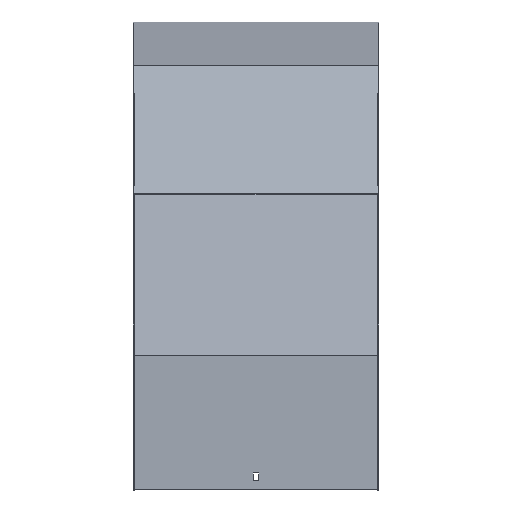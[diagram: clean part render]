
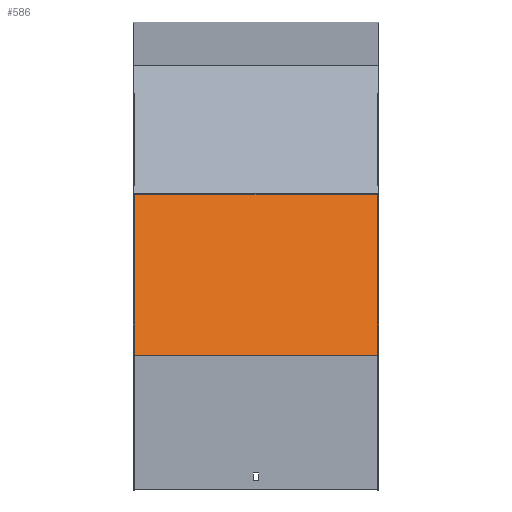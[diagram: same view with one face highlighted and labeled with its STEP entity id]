
A CAD part, top view. The second image highlights one B-rep face of the part: STEP entity #586.
In plain terms, the highlighted planar face has unit normal (0, 0.259, 0.966).
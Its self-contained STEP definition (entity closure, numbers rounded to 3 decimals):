
#2 = DIRECTION ( 'NONE',  ( 0., -0.259, -0.966 ) ) ;
#17 = VECTOR ( 'NONE', #1045, 1000. ) ;
#43 = DIRECTION ( 'NONE',  ( -1., 0., 0. ) ) ;
#45 = VERTEX_POINT ( 'NONE', #642 ) ;
#68 = EDGE_CURVE ( 'NONE', #100, #785, #1025, .T. ) ;
#77 = DIRECTION ( 'NONE',  ( 0., -0.966, 0.259 ) ) ;
#100 = VERTEX_POINT ( 'NONE', #411 ) ;
#130 = DIRECTION ( 'NONE',  ( 0., -0.966, 0.259 ) ) ;
#159 = ORIENTED_EDGE ( 'NONE', *, *, #68, .T. ) ;
#210 = VERTEX_POINT ( 'NONE', #306 ) ;
#248 = ORIENTED_EDGE ( 'NONE', *, *, #463, .F. ) ;
#252 = LINE ( 'NONE', #671, #364 ) ;
#306 = CARTESIAN_POINT ( 'NONE',  ( 151.5, -392.412, 579.045 ) ) ;
#364 = VECTOR ( 'NONE', #77, 1000. ) ;
#367 = CARTESIAN_POINT ( 'NONE',  ( 151.5, -197.649, 526.859 ) ) ;
#411 = CARTESIAN_POINT ( 'NONE',  ( 151.5, -192.473, 525.472 ) ) ;
#463 = EDGE_CURVE ( 'NONE', #100, #210, #252, .T. ) ;
#470 = CARTESIAN_POINT ( 'NONE',  ( -151.5, -192.473, 525.472 ) ) ;
#586 = ADVANCED_FACE ( 'NONE', ( #884 ), #805, .F. ) ;
#596 = VECTOR ( 'NONE', #130, 1000. ) ;
#622 = EDGE_CURVE ( 'NONE', #785, #45, #1038, .T. ) ;
#642 = CARTESIAN_POINT ( 'NONE',  ( -151.5, -392.412, 579.045 ) ) ;
#671 = CARTESIAN_POINT ( 'NONE',  ( 151.5, -197.649, 526.859 ) ) ;
#672 = VECTOR ( 'NONE', #43, 1000. ) ;
#709 = DIRECTION ( 'NONE',  ( 0., 0.966, -0.259 ) ) ;
#747 = ORIENTED_EDGE ( 'NONE', *, *, #906, .F. ) ;
#760 = CARTESIAN_POINT ( 'NONE',  ( 151.5, -192.473, 525.472 ) ) ;
#785 = VERTEX_POINT ( 'NONE', #470 ) ;
#805 = PLANE ( 'NONE',  #866 ) ;
#816 = CARTESIAN_POINT ( 'NONE',  ( -151.5, -197.649, 526.859 ) ) ;
#830 = LINE ( 'NONE', #1006, #672 ) ;
#856 = EDGE_LOOP ( 'NONE', ( #1099, #747, #248, #159 ) ) ;
#866 = AXIS2_PLACEMENT_3D ( 'NONE', #367, #2, #709 ) ;
#884 = FACE_OUTER_BOUND ( 'NONE', #856, .T. ) ;
#906 = EDGE_CURVE ( 'NONE', #210, #45, #830, .T. ) ;
#1006 = CARTESIAN_POINT ( 'NONE',  ( 151.5, -392.412, 579.045 ) ) ;
#1025 = LINE ( 'NONE', #760, #17 ) ;
#1038 = LINE ( 'NONE', #816, #596 ) ;
#1045 = DIRECTION ( 'NONE',  ( -1., 0., 0. ) ) ;
#1099 = ORIENTED_EDGE ( 'NONE', *, *, #622, .T. ) ;
